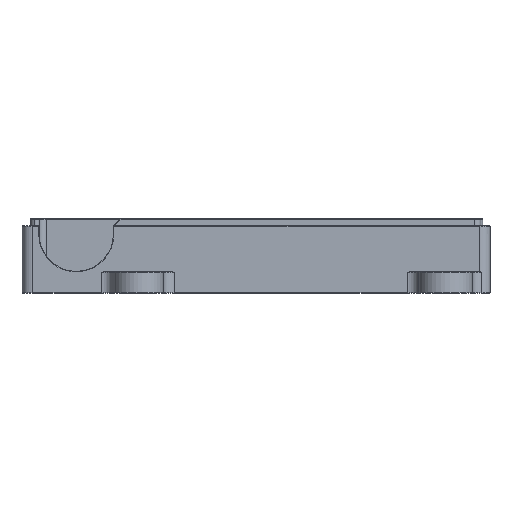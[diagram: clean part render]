
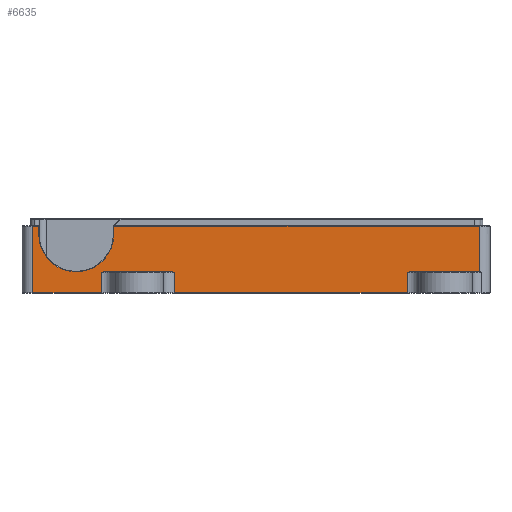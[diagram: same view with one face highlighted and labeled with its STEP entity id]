
A CAD part, left-side view. The second image highlights one B-rep face of the part: STEP entity #6635.
In plain terms, the highlighted planar face has unit normal (-1, 0, 0).
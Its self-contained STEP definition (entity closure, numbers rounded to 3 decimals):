
#41=(
BOUNDED_CURVE()
B_SPLINE_CURVE(2,(#10937,#10938,#10939),.UNSPECIFIED.,.F.,.F.)
B_SPLINE_CURVE_WITH_KNOTS((3,3),(0.041,0.081),
 .UNSPECIFIED.)
CURVE()
GEOMETRIC_REPRESENTATION_ITEM()
RATIONAL_B_SPLINE_CURVE((1.,1.008,1.))
REPRESENTATION_ITEM('')
);
#42=(
BOUNDED_CURVE()
B_SPLINE_CURVE(2,(#10943,#10944,#10945),.UNSPECIFIED.,.F.,.F.)
B_SPLINE_CURVE_WITH_KNOTS((3,3),(0.,0.041),.UNSPECIFIED.)
CURVE()
GEOMETRIC_REPRESENTATION_ITEM()
RATIONAL_B_SPLINE_CURVE((1.,1.008,1.))
REPRESENTATION_ITEM('')
);
#43=(
BOUNDED_CURVE()
B_SPLINE_CURVE(2,(#10953,#10954,#10955),.UNSPECIFIED.,.F.,.F.)
B_SPLINE_CURVE_WITH_KNOTS((3,3),(0.041,0.081),
 .UNSPECIFIED.)
CURVE()
GEOMETRIC_REPRESENTATION_ITEM()
RATIONAL_B_SPLINE_CURVE((1.,1.008,1.))
REPRESENTATION_ITEM('')
);
#326=CIRCLE('',#7176,5.25);
#753=FACE_OUTER_BOUND('',#1150,.T.);
#1150=EDGE_LOOP('',(#5229,#5230,#5231,#5232,#5233,#5234,#5235,#5236,#5237,
#5238,#5239,#5240,#5241,#5242,#5243,#5244,#5245));
#1721=LINE('',#10849,#2370);
#1723=LINE('',#10865,#2372);
#1735=LINE('',#10913,#2384);
#1740=LINE('',#10929,#2389);
#1741=LINE('',#10931,#2390);
#1742=LINE('',#10933,#2391);
#1743=LINE('',#10935,#2392);
#1744=LINE('',#10941,#2393);
#1745=LINE('',#10947,#2394);
#1746=LINE('',#10949,#2395);
#1747=LINE('',#10951,#2396);
#1748=LINE('',#10957,#2397);
#1749=LINE('',#10958,#2398);
#2370=VECTOR('',#8547,10.);
#2372=VECTOR('',#8557,10.);
#2384=VECTOR('',#8607,10.);
#2389=VECTOR('',#8626,10.);
#2390=VECTOR('',#8627,10.);
#2391=VECTOR('',#8628,10.);
#2392=VECTOR('',#8629,10.);
#2393=VECTOR('',#8630,10.);
#2394=VECTOR('',#8631,10.);
#2395=VECTOR('',#8632,10.);
#2396=VECTOR('',#8633,10.);
#2397=VECTOR('',#8634,10.);
#2398=VECTOR('',#8635,10.);
#3026=VERTEX_POINT('',#10835);
#3028=VERTEX_POINT('',#10840);
#3031=VERTEX_POINT('',#10848);
#3033=VERTEX_POINT('',#10858);
#3050=VERTEX_POINT('',#10912);
#3054=VERTEX_POINT('',#10928);
#3055=VERTEX_POINT('',#10930);
#3056=VERTEX_POINT('',#10932);
#3057=VERTEX_POINT('',#10934);
#3058=VERTEX_POINT('',#10936);
#3059=VERTEX_POINT('',#10940);
#3060=VERTEX_POINT('',#10942);
#3061=VERTEX_POINT('',#10946);
#3062=VERTEX_POINT('',#10948);
#3063=VERTEX_POINT('',#10950);
#3064=VERTEX_POINT('',#10952);
#3065=VERTEX_POINT('',#10956);
#3792=EDGE_CURVE('',#3028,#3031,#1721,.T.);
#3796=EDGE_CURVE('',#3031,#3033,#326,.T.);
#3798=EDGE_CURVE('',#3033,#3026,#1723,.T.);
#3822=EDGE_CURVE('',#3026,#3050,#1735,.T.);
#3830=EDGE_CURVE('',#3054,#3028,#1740,.T.);
#3831=EDGE_CURVE('',#3055,#3054,#1741,.T.);
#3832=EDGE_CURVE('',#3056,#3055,#1742,.T.);
#3833=EDGE_CURVE('',#3057,#3056,#1743,.T.);
#3834=EDGE_CURVE('',#3058,#3057,#41,.F.);
#3835=EDGE_CURVE('',#3058,#3059,#1744,.T.);
#3836=EDGE_CURVE('',#3060,#3059,#42,.F.);
#3837=EDGE_CURVE('',#3061,#3060,#1745,.T.);
#3838=EDGE_CURVE('',#3062,#3061,#1746,.T.);
#3839=EDGE_CURVE('',#3063,#3062,#1747,.T.);
#3840=EDGE_CURVE('',#3064,#3063,#43,.F.);
#3841=EDGE_CURVE('',#3064,#3065,#1748,.T.);
#3842=EDGE_CURVE('',#3050,#3065,#1749,.T.);
#5229=ORIENTED_EDGE('',*,*,#3792,.F.);
#5230=ORIENTED_EDGE('',*,*,#3830,.F.);
#5231=ORIENTED_EDGE('',*,*,#3831,.F.);
#5232=ORIENTED_EDGE('',*,*,#3832,.F.);
#5233=ORIENTED_EDGE('',*,*,#3833,.F.);
#5234=ORIENTED_EDGE('',*,*,#3834,.F.);
#5235=ORIENTED_EDGE('',*,*,#3835,.T.);
#5236=ORIENTED_EDGE('',*,*,#3836,.F.);
#5237=ORIENTED_EDGE('',*,*,#3837,.F.);
#5238=ORIENTED_EDGE('',*,*,#3838,.F.);
#5239=ORIENTED_EDGE('',*,*,#3839,.F.);
#5240=ORIENTED_EDGE('',*,*,#3840,.F.);
#5241=ORIENTED_EDGE('',*,*,#3841,.T.);
#5242=ORIENTED_EDGE('',*,*,#3842,.F.);
#5243=ORIENTED_EDGE('',*,*,#3822,.F.);
#5244=ORIENTED_EDGE('',*,*,#3798,.F.);
#5245=ORIENTED_EDGE('',*,*,#3796,.F.);
#6372=PLANE('',#7203);
#6635=ADVANCED_FACE('',(#753),#6372,.T.);
#7176=AXIS2_PLACEMENT_3D('',#10859,#8553,#8554);
#7203=AXIS2_PLACEMENT_3D('',#10927,#8624,#8625);
#8547=DIRECTION('',(0.,0.,-1.));
#8553=DIRECTION('center_axis',(-1.,0.,0.));
#8554=DIRECTION('ref_axis',(0.,-1.,0.));
#8557=DIRECTION('',(0.,0.,1.));
#8607=DIRECTION('',(0.,-1.,0.));
#8624=DIRECTION('center_axis',(-1.,0.,0.));
#8625=DIRECTION('ref_axis',(0.,-1.,0.));
#8626=DIRECTION('',(0.,-1.,0.));
#8627=DIRECTION('',(0.,0.,1.));
#8628=DIRECTION('',(0.,1.,0.));
#8629=DIRECTION('',(0.,0.,-1.));
#8630=DIRECTION('',(0.,-1.,0.));
#8631=DIRECTION('',(0.,0.,1.));
#8632=DIRECTION('',(0.,1.,0.));
#8633=DIRECTION('',(0.,0.,-1.));
#8634=DIRECTION('',(0.,-1.,0.));
#8635=DIRECTION('',(0.,0.,-1.));
#10835=CARTESIAN_POINT('',(-17.75,24.91,3.594));
#10840=CARTESIAN_POINT('',(-17.75,35.4,3.594));
#10848=CARTESIAN_POINT('',(-17.75,35.4,2.26));
#10849=CARTESIAN_POINT('',(-17.75,35.4,-5.756));
#10858=CARTESIAN_POINT('',(-17.75,24.91,2.26));
#10859=CARTESIAN_POINT('Origin',(-17.75,30.155,2.487));
#10865=CARTESIAN_POINT('',(-17.75,24.91,-0.392));
#10912=CARTESIAN_POINT('',(-17.75,-26.25,3.594));
#10913=CARTESIAN_POINT('',(-17.75,21.375,3.594));
#10927=CARTESIAN_POINT('Origin',(-17.75,37.75,-5.756));
#10928=CARTESIAN_POINT('',(-17.75,36.25,3.594));
#10929=CARTESIAN_POINT('',(-17.75,21.375,3.594));
#10930=CARTESIAN_POINT('',(-17.75,36.25,-5.706));
#10931=CARTESIAN_POINT('',(-17.75,36.25,-5.756));
#10932=CARTESIAN_POINT('',(-17.75,26.6,-5.706));
#10933=CARTESIAN_POINT('',(-17.75,20.,-5.706));
#10934=CARTESIAN_POINT('',(-17.75,26.6,-2.806));
#10935=CARTESIAN_POINT('',(-17.75,26.6,-5.756));
#10936=CARTESIAN_POINT('',(-17.75,26.197,-2.756));
#10937=CARTESIAN_POINT('Ctrl Pts',(-17.75,26.6,-2.806));
#10938=CARTESIAN_POINT('Ctrl Pts',(-17.75,26.402,-2.806));
#10939=CARTESIAN_POINT('Ctrl Pts',(-17.75,26.197,-2.756));
#10940=CARTESIAN_POINT('',(-17.75,16.803,-2.756));
#10941=CARTESIAN_POINT('',(-17.75,18.813,-2.756));
#10942=CARTESIAN_POINT('',(-17.75,16.4,-2.806));
#10943=CARTESIAN_POINT('Ctrl Pts',(-17.75,16.803,-2.756));
#10944=CARTESIAN_POINT('Ctrl Pts',(-17.75,16.598,-2.806));
#10945=CARTESIAN_POINT('Ctrl Pts',(-17.75,16.4,-2.806));
#10946=CARTESIAN_POINT('',(-17.75,16.4,-5.706));
#10947=CARTESIAN_POINT('',(-17.75,16.4,-5.756));
#10948=CARTESIAN_POINT('',(-17.75,-16.149,-5.706));
#10949=CARTESIAN_POINT('',(-17.75,20.,-5.706));
#10950=CARTESIAN_POINT('',(-17.75,-16.149,-2.806));
#10951=CARTESIAN_POINT('',(-17.75,-16.149,-5.756));
#10952=CARTESIAN_POINT('',(-17.75,-16.552,-2.756));
#10953=CARTESIAN_POINT('Ctrl Pts',(-17.75,-16.149,-2.806));
#10954=CARTESIAN_POINT('Ctrl Pts',(-17.75,-16.348,-2.806));
#10955=CARTESIAN_POINT('Ctrl Pts',(-17.75,-16.552,-2.756));
#10956=CARTESIAN_POINT('',(-17.75,-26.25,-2.756));
#10957=CARTESIAN_POINT('',(-17.75,18.813,-2.756));
#10958=CARTESIAN_POINT('',(-17.75,-26.25,-5.756));
